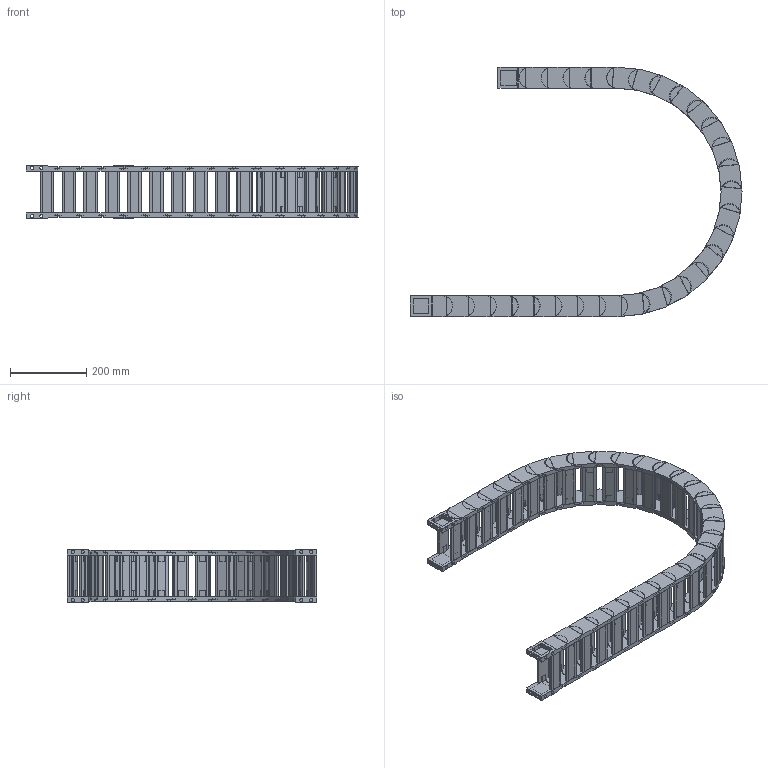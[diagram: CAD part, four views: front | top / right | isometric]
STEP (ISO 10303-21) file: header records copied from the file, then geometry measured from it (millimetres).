
FILE_DESCRIPTION((''),'2;1');
FILE_NAME('HD35-R300-ZPT_ASM','2022-07-25T16:52:48',('admin'),(''),'CREO PARAMETRIC BY PTC INC, 2021164','CREO PARAMETRIC BY PTC INC, 2021164','');
FILE_SCHEMA(('CONFIG_CONTROL_DESIGN','GEOMETRIC_VALIDATION_PROPERTIES_MIM'));
Length unit declared in the file: millimetre
Products named in the file (6): HD35; 35-600001; HD35_ASM; 35-TL_11; 35-WL; HD35-R300-ZPT_ASM
Assembly tree (34 placements, depth 3):
  HD35-R300-ZPT_ASM
    HD35_ASM  x28
      HD35
      35-600001
    35-TL_11
    35-WL
    35-600001  x2
Bounding box: 872.5 x 655 x 138.3 mm (x, y, z)
Volume: 4340038.7 mm3; surface area: 1537699.1 mm2
Topology: 120 solids, 120 shells, 2218 faces, 5906 edges, 4052 vertices
Faces by surface type: plane 1518, cylinder 700
Entity records: 9527 total; most frequent: DIRECTION 1442, CARTESIAN_POINT 1432, ORIENTED_EDGE 1300, EDGE_CURVE 650, AXIS2_PLACEMENT_3D 516, VERTEX_POINT 440, VECTOR 410, LINE 410
